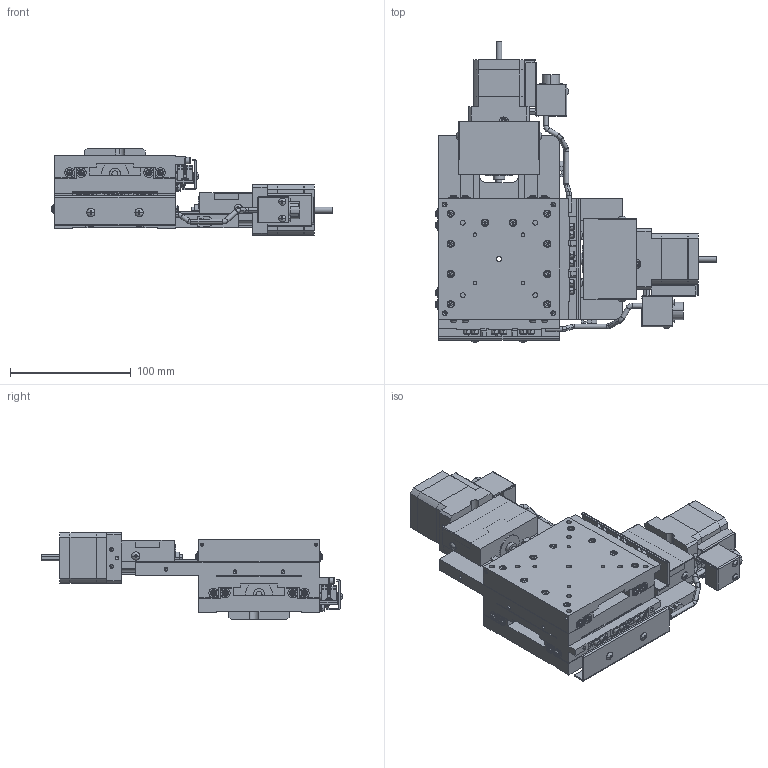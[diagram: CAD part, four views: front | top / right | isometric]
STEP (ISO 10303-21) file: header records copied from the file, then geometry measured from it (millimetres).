
FILE_DESCRIPTION (( 'STEP AP203' ), '1' );
FILE_NAME ('YA10F-R102-RRR.STEP', '2019-03-08T08:28:24', ( '' ), ( '' ), 'SwSTEP 2.0', 'SolidWorks 2018', '' );
FILE_SCHEMA (( 'CONFIG_CONTROL_DESIGN' ));
Length unit declared in the file: millimetre
Products named in the file (4): YA10F-R102-RRR; table; base; second table
Assembly tree (3 placements, depth 2):
  YA10F-R102-RRR
    table
    second table
    base
Bounding box: 232.48 x 249.09 x 72 mm (x, y, z)
Volume: 880677.3 mm3; surface area: 256838.7 mm2
Topology: 3 solids, 9 shells, 4205 faces, 10433 edges, 6386 vertices
Faces by surface type: plane 2533, cylinder 980, cone 552, sphere 72, torus 68
Entity records: 124843 total; most frequent: CARTESIAN_POINT 22479, DIRECTION 22249, ORIENTED_EDGE 20530, EDGE_CURVE 10265, AXIS2_PLACEMENT_3D 7922, LINE 6405, VECTOR 6405, VERTEX_POINT 6386
